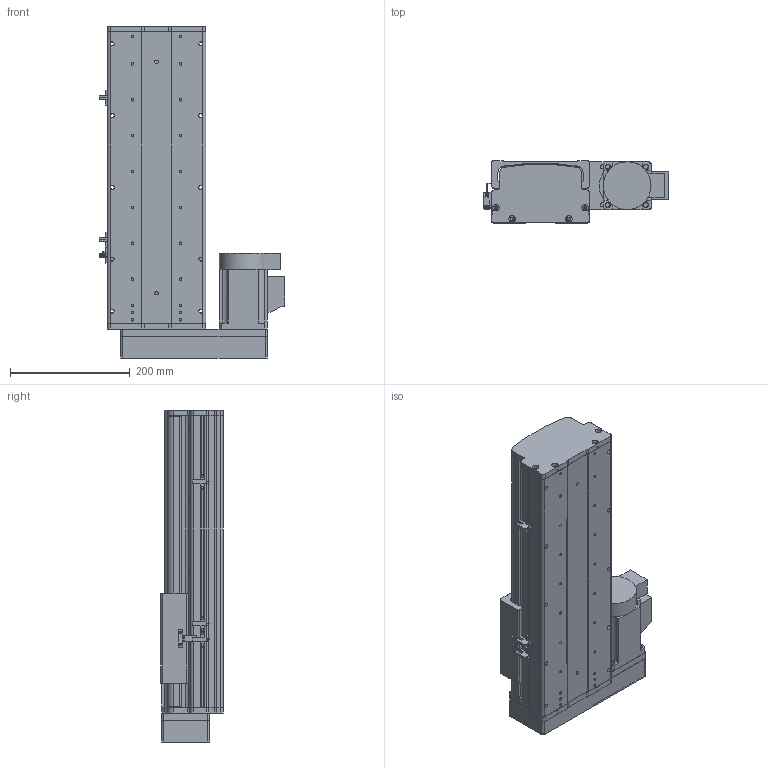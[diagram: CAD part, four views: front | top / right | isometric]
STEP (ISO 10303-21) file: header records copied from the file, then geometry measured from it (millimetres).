
FILE_DESCRIPTION (( 'STEP AP214' ), '1' );
FILE_NAME ('KSD165S-S250-ML-CM .STEP', '2017-10-17T08:43:28', ( '微软用户' ), ( '微软中国' ), 'SwSTEP 2.0', 'SolidWorks 2014', '' );
FILE_SCHEMA (( 'AUTOMOTIVE_DESIGN' ));
Length unit declared in the file: millimetre
Products named in the file (16): KSD165S-S250-ML-CM ; 覜茼え68遵圉猾敕; U倰嫖萇EEㄜSX672; 拸秶雄ん750W侜督萇儂; KSD165模组-丝杆上下左右折前端板; HTPA26S5M250-A-H8丝杆用(内径14）; HTPA26S5M250-A-H8 750W萇儂蚚; 165宽模组马达安装板连板左右折丝杆; 165宽模组保护罩左右折; KSD165模组-防尘盖1-250行程-最新版; KSD165模组底板-250行程-最新; KSD165耀郪-佪裝-滅袉菜-3 -; KSD165耀郪-佪裝-滅袉菜-1; U倰嫖萇假蚾璃; KSD165耀郪-綴傷啣1; KSD165模组-丝杆滑动座-最新版
Assembly tree (19 placements, depth 2):
  KSD165S-S250-ML-CM 
    KSD165模组-丝杆滑动座-最新版
    KSD165耀郪-綴傷啣1
    U倰嫖萇假蚾璃  x3
    KSD165耀郪-佪裝-滅袉菜-1
    KSD165耀郪-佪裝-滅袉菜-3 -
    KSD165模组底板-250行程-最新
    KSD165模组-防尘盖1-250行程-最新版
    165宽模组保护罩左右折
    165宽模组马达安装板连板左右折丝杆
    HTPA26S5M250-A-H8 750W萇儂蚚
    HTPA26S5M250-A-H8丝杆用(内径14）
    KSD165模组-丝杆上下左右折前端板
    拸秶雄ん750W侜督萇儂
    U倰嫖萇EEㄜSX672  x3
    覜茼え68遵圉猾敕
Bounding box: 311.2 x 104 x 555.5 mm (x, y, z)
Volume: 4483721.8 mm3; surface area: 1032451 mm2
Topology: 20 solids, 20 shells, 1751 faces, 4958 edges, 3239 vertices
Faces by surface type: cylinder 1115, plane 535, cone 101
Entity records: 56811 total; most frequent: CARTESIAN_POINT 11887, DIRECTION 9217, ORIENTED_EDGE 8604, EDGE_CURVE 4302, AXIS2_PLACEMENT_3D 3601, VERTEX_POINT 2831, CIRCLE 2048, LINE 2015
